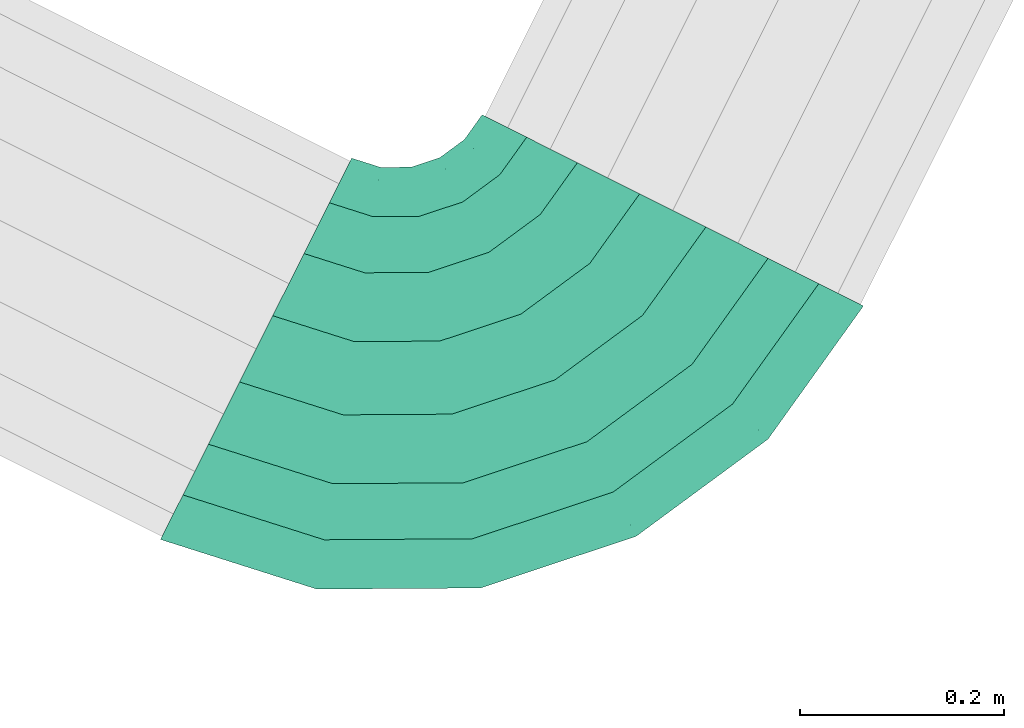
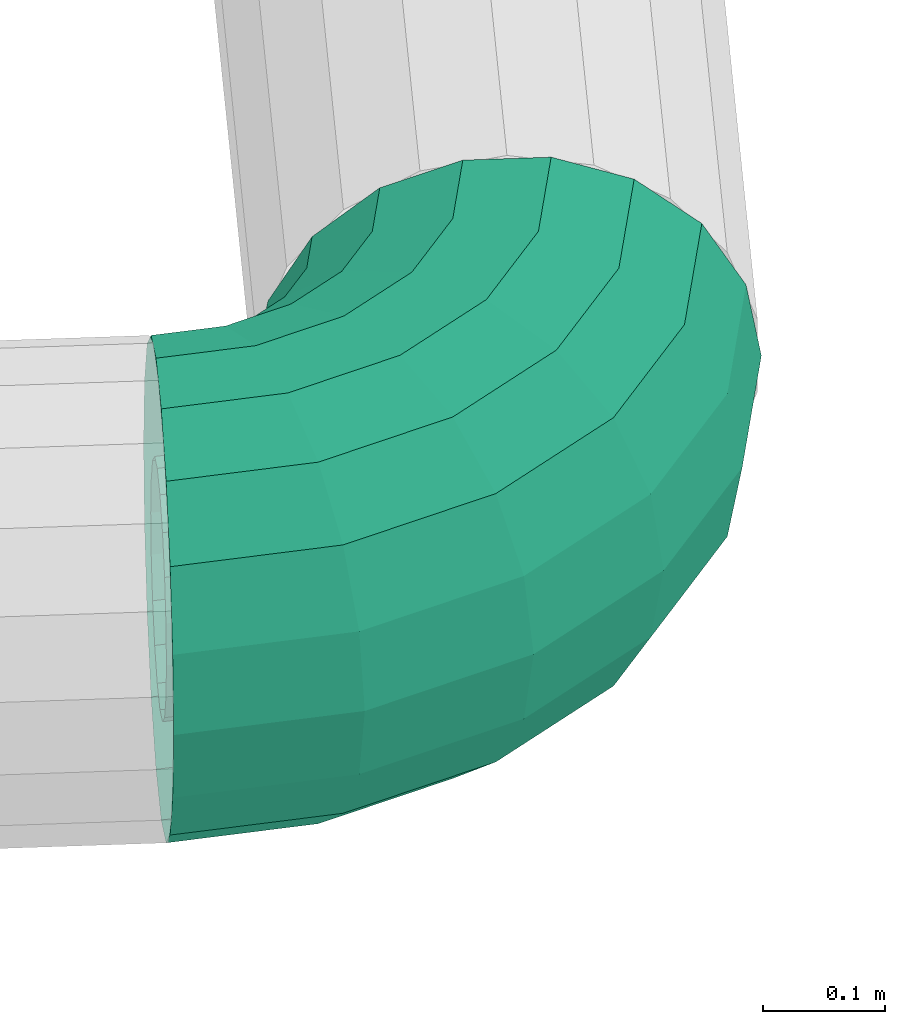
# One storey, part 49 of 152: 1 flow segment.
"""IFC2X3 building model written with IfcOpenShell, lengths in metres."""

from ifc_helpers import new_model, si_unit, derived_unit, direction, frame, origin, place, context, subcontext, project, spatial, face_set, surface_model, source, transform, mapped, material, type_object, type_shapes, element, save


model = new_model("IFC2X3")

# Units and contexts
model_context = context("Model", 3, precision=5.2338327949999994e-05, world=origin(), true_north=direction((0.0, 1.0)))
body_context = subcontext(model_context, "Body", "Model", "MODEL_VIEW")
ifc_project = project(units=[si_unit("LENGTHUNIT", "METRE"), si_unit("AREAUNIT", "SQUARE_METRE"), si_unit("VOLUMEUNIT", "CUBIC_METRE"), si_unit("MASSUNIT", "GRAM", prefix="KILO"), si_unit("PLANEANGLEUNIT", "RADIAN"), derived_unit("THERMALTRANSMITTANCEUNIT", [(si_unit("MASSUNIT", "GRAM", prefix="KILO"), 1), (si_unit("THERMODYNAMICTEMPERATUREUNIT", "KELVIN"), -1), (si_unit("TIMEUNIT", "SECOND"), -3)])], contexts=[model_context])

# Site, building, storey
site_placement = place(None, frame((0.0, 0.0, 0.0), z_axis=(0.0, 0.0, 1.0), x_axis=(0.8939966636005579, -0.4480736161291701, 0.0)))
site = spatial("IfcSite", under=ifc_project, at=site_placement, Name="Default", CompositionType="ELEMENT")
building_placement = place(site_placement, origin())
building = spatial("IfcBuilding", under=site, at=building_placement, CompositionType="ELEMENT")
storey_placement = place(building_placement, frame((0.0, 0.0, 2.7499999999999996)))
storey = spatial("IfcBuildingStorey", under=building, at=storey_placement, Name="1. Obergeschoss", CompositionType="ELEMENT", Elevation=2.7499999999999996)

# Flow segment
ifc_material = material(Name="IfcSurfaceStyle #1741")
distribution_element_type = type_object("IfcDistributionElementType", Name="Rohrbogen 227214:Rohrbogen 227214", material=ifc_material)
shared_shape = source(origin(), body_context, "Body", "SurfaceModel", [
    surface_model("IfcFaceBasedSurfaceModel", [(15.752724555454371, 7.902658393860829, 5.635640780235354), (15.752724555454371, 7.909265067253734, 5.598172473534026), (15.878785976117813, 7.929231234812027, 5.598172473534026), (15.880827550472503, 7.922947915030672, 5.635640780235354), (15.992507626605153, 7.987175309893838, 5.598172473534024), (15.996390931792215, 7.981830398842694, 5.635640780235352), (16.08275763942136, 8.077425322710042, 5.598172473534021), (16.088102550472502, 8.073542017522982, 5.635640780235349), (16.14070171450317, 8.191146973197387, 5.598172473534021), (16.14698503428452, 8.189105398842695, 5.635640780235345), (16.160667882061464, 8.317208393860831, 5.598172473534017), (16.167274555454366, 8.317208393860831, 5.635640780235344), (15.752724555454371, 7.928288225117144, 5.565223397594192), (15.872907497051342, 7.947323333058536, 5.565223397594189), (15.981326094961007, 8.002565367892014, 5.565223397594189), (16.067367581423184, 8.08860685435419, 5.565223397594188), (16.122609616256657, 8.197025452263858, 5.565223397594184), (16.141644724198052, 8.317208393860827, 5.565223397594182), (15.752724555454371, 7.9574333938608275, 5.540767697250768), (15.863901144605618, 7.975042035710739, 5.540767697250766), (15.964194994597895, 8.02614430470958, 5.540767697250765), (16.043788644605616, 8.105737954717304, 5.540767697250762), (16.094890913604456, 8.206031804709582, 5.540767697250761), (16.11249955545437, 8.317208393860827, 5.540767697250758), (15.752724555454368, 7.993185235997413, 5.527755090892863), (15.8528532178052, 8.009044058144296, 5.527755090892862), (15.943180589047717, 8.05506815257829, 5.527755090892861), (16.014864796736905, 8.126752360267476, 5.52775509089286), (16.0608888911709, 8.217079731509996, 5.527755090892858), (16.076747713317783, 8.317208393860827, 5.527755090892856), (15.752724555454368, 8.03123155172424, 5.527755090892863), (15.841096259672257, 8.045228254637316, 5.527755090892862), (15.920817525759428, 8.085848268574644, 5.527755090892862), (15.984084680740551, 8.149115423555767, 5.527755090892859), (16.024704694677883, 8.22883668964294, 5.527755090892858), (16.038701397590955, 8.317208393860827, 5.527755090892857), (15.752724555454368, 8.066983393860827, 5.540767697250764), (15.830048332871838, 8.07923027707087, 5.540767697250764), (15.899803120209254, 8.114772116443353, 5.540767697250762), (15.955160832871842, 8.170129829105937, 5.540767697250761), (15.990702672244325, 8.239884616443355, 5.54076769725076), (16.002949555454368, 8.317208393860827, 5.540767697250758), (15.752724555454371, 8.096128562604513, 5.565223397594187), (15.821041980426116, 8.106948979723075, 5.565223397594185), (15.88267201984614, 8.13835105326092, 5.565223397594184), (15.931581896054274, 8.187260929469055, 5.565223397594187), (15.962983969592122, 8.24889096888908, 5.565223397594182), (15.973804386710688, 8.317208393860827, 5.565223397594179), (15.752724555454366, 8.115151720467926, 5.598172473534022), (15.815163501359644, 8.125041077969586, 5.59817247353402), (15.871490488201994, 8.153741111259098, 5.598172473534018), (15.9161918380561, 8.198442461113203, 5.598172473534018), (15.944891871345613, 8.254769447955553, 5.598172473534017), (15.95478122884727, 8.317208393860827, 5.5981724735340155), (15.752724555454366, 8.12175839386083, 5.635640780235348), (15.81312192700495, 8.13132439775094, 5.635640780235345), (15.86760718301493, 8.159086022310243, 5.635640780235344), (15.91084692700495, 8.202325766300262, 5.635640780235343), (15.938608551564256, 8.256811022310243, 5.635640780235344), (15.948174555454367, 8.317208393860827, 5.6356407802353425), (15.752724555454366, 8.115151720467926, 5.673109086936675), (15.815163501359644, 8.125041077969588, 5.673109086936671), (15.871490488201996, 8.1537411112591, 5.673109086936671), (15.916191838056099, 8.198442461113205, 5.67310908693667), (15.944891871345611, 8.254769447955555, 5.67310908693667), (15.95478122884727, 8.317208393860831, 5.673109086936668), (15.752724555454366, 8.096128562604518, 5.706058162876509), (15.821041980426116, 8.106948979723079, 5.706058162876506), (15.88267201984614, 8.138351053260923, 5.706058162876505), (15.931581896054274, 8.187260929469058, 5.706058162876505), (15.96298396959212, 8.248890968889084, 5.706058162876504), (15.973804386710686, 8.317208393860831, 5.706058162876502), (15.752724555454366, 8.06698339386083, 5.730513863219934), (15.830048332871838, 8.079230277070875, 5.730513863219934), (15.899803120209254, 8.11477211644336, 5.730513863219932), (15.955160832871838, 8.170129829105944, 5.730513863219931), (15.990702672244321, 8.23988461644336, 5.730513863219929), (16.002949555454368, 8.317208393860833, 5.730513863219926), (15.752724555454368, 8.031231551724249, 5.743526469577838), (15.841096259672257, 8.045228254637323, 5.743526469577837), (15.920817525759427, 8.085848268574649, 5.743526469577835), (15.98408468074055, 8.149115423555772, 5.7435264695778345), (16.024704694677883, 8.228836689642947, 5.743526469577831), (16.03870139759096, 8.317208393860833, 5.74352646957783), (15.752724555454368, 7.99318523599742, 5.743526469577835), (15.8528532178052, 8.009044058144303, 5.743526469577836), (15.943180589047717, 8.055068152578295, 5.743526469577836), (16.01486479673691, 8.126752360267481, 5.743526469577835), (16.060888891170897, 8.217079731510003, 5.743526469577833), (16.07674771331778, 8.317208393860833, 5.743526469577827), (15.752724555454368, 7.957433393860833, 5.730513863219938), (15.863901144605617, 7.975042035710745, 5.730513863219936), (15.964194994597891, 8.026144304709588, 5.730513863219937), (16.043788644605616, 8.105737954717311, 5.730513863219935), (16.094890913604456, 8.206031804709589, 5.730513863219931), (16.112499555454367, 8.317208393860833, 5.730513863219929), (15.752724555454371, 7.92828822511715, 5.706058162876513), (15.872907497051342, 7.9473233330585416, 5.706058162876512), (15.981326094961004, 8.002565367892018, 5.706058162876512), (16.06736758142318, 8.088606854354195, 5.706058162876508), (16.122609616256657, 8.197025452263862, 5.706058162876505), (16.14164472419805, 8.317208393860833, 5.706058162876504), (15.752724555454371, 7.909265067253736, 5.673109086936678), (15.878785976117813, 7.929231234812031, 5.673109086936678), (15.99250762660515, 7.987175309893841, 5.673109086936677), (16.08275763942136, 8.077425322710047, 5.673109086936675), (16.140701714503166, 8.19114697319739, 5.673109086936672), (16.160667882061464, 8.317208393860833, 5.67310908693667), (15.752724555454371, 7.8026583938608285, 5.635640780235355), (15.752724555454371, 7.81529580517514, 5.563970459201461), (15.90782407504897, 7.839861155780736, 5.563970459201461), (15.91172924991, 7.827842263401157, 5.635640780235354), (16.047741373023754, 7.911152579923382, 5.56397045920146), (16.055169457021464, 7.900928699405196, 5.635640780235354), (16.158780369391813, 8.02219157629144, 5.563970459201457), (16.16900424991, 8.014763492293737, 5.635640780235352), (16.23007179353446, 8.162108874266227, 5.563970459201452), (16.24209068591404, 8.158203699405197, 5.635640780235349), (16.25463714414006, 8.317208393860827, 5.56397045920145), (16.26727455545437, 8.317208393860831, 5.635640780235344), (15.752724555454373, 7.851683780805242, 5.50094463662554), (15.896579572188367, 7.874468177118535, 5.500944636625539), (16.026353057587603, 7.940591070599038, 5.500944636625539), (16.129341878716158, 8.043579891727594, 5.500944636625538), (16.195464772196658, 8.173353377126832, 5.5009446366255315), (16.218249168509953, 8.317208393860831, 5.50094463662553), (15.752724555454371, 7.907433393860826, 5.454165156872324), (15.879351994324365, 7.927489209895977, 5.454165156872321), (15.993584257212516, 7.98569345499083, 5.454165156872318), (16.084239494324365, 8.076348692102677, 5.45416515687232), (16.142443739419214, 8.190580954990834, 5.454165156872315), (16.16249955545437, 8.317208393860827, 5.454165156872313), (15.752724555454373, 7.975820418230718, 5.429274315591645), (15.858219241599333, 7.992529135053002, 5.429274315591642), (15.953387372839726, 8.041019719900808, 5.429274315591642), (16.028913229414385, 8.116545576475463, 5.42927431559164), (16.07740381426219, 8.21171370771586, 5.429274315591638), (16.094112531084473, 8.317208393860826, 5.429274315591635), (15.752724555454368, 8.048596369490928, 5.429274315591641), (15.835730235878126, 8.0617431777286, 5.429274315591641), (15.91061074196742, 8.099896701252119, 5.429274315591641), (15.970036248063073, 8.159322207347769, 5.4292743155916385), (16.008189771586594, 8.234202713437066, 5.429274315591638), (16.021336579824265, 8.317208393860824, 5.429274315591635), (15.752724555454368, 8.116983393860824, 5.4541651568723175), (15.814597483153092, 8.126783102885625, 5.454165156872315), (15.87041385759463, 8.1552229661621, 5.454165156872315), (15.914709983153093, 8.199519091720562, 5.454165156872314), (15.943149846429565, 8.255335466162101, 5.454165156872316), (15.95294955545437, 8.317208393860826, 5.45416515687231), (15.752724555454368, 8.172733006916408, 5.50094463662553), (15.797369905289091, 8.179804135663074, 5.500944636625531), (15.837645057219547, 8.200325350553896, 5.500944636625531), (15.869607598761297, 8.23228789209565, 5.50094463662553), (15.890128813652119, 8.272563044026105, 5.500944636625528), (15.897199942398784, 8.317208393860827, 5.500944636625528), (15.752724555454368, 8.209120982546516, 5.5639704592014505), (15.786125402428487, 8.214411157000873, 5.56397045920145), (15.81625674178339, 8.229763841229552, 5.5639704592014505), (15.840169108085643, 8.253676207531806, 5.56397045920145), (15.855521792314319, 8.283807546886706, 5.5639704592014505), (15.860811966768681, 8.317208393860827, 5.56397045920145), (15.752724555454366, 8.221758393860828, 5.635640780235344), (15.782220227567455, 8.226430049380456, 5.635640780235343), (15.808828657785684, 8.23998772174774, 5.635640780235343), (15.82994522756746, 8.261104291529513, 5.635640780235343), (15.843502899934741, 8.287712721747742, 5.635640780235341), (15.848174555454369, 8.317208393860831, 5.635640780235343), (15.752724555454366, 8.209120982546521, 5.707311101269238), (15.786125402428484, 8.21441115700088, 5.707311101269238), (15.816256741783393, 8.229763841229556, 5.707311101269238), (15.840169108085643, 8.253676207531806, 5.707311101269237), (15.855521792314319, 8.283807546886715, 5.7073111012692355), (15.86081196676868, 8.317208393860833, 5.7073111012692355), (15.752724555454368, 8.172733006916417, 5.77033692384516), (15.797369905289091, 8.179804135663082, 5.770336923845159), (15.837645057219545, 8.200325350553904, 5.77033692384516), (15.869607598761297, 8.232287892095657, 5.770336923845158), (15.890128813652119, 8.272563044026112, 5.770336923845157), (15.897199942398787, 8.317208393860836, 5.770336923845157), (15.752724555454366, 8.116983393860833, 5.817116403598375), (15.814597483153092, 8.126783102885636, 5.817116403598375), (15.870413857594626, 8.155222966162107, 5.817116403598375), (15.914709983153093, 8.199519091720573, 5.817116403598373), (15.943149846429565, 8.25533546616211, 5.817116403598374), (15.952949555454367, 8.317208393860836, 5.817116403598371), (15.752724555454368, 8.04859636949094, 5.842007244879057), (15.835730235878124, 8.06174317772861, 5.842007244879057), (15.910610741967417, 8.099896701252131, 5.842007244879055), (15.970036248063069, 8.159322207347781, 5.8420072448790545), (16.008189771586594, 8.234202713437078, 5.842007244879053), (16.021336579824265, 8.317208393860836, 5.84200724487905), (15.752724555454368, 7.975820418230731, 5.84200724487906), (15.85821924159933, 7.992529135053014, 5.842007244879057), (15.953387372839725, 8.041019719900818, 5.842007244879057), (16.02891322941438, 8.116545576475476, 5.842007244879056), (16.07740381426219, 8.211713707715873, 5.842007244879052), (16.094112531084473, 8.317208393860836, 5.84200724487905), (15.752724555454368, 7.907433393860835, 5.817116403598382), (15.879351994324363, 7.927489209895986, 5.81711640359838), (15.993584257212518, 7.985693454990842, 5.817116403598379), (16.08423949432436, 8.076348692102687, 5.817116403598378), (16.142443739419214, 8.190580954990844, 5.8171164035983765), (16.16249955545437, 8.31720839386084, 5.817116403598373), (15.752724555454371, 7.851683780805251, 5.770336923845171), (15.896579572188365, 7.874468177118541, 5.77033692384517), (16.026353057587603, 7.940591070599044, 5.770336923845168), (16.129341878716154, 8.043579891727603, 5.770336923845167), (16.195464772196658, 8.17335337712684, 5.770336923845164), (16.21824916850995, 8.317208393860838, 5.770336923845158), (15.752724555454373, 7.815295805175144, 5.70731110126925), (15.907824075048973, 7.839861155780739, 5.70731110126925), (16.047741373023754, 7.911152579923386, 5.707311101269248), (16.158780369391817, 8.022191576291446, 5.707311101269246), (16.23007179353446, 8.162108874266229, 5.7073111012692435), (16.25463714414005, 8.317208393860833, 5.707311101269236)], [face_set([[[0, 1, 2, 3]], [[3, 2, 4, 5]], [[5, 4, 6, 7]], [[7, 6, 8, 9]], [[9, 8, 10, 11]], [[1, 12, 13, 2]], [[2, 13, 14, 4]], [[4, 14, 15, 6]], [[6, 15, 16, 8]], [[8, 16, 17, 10]], [[12, 18, 19, 13]], [[13, 19, 20, 14]], [[14, 20, 21, 15]], [[15, 21, 22, 16]], [[16, 22, 23, 17]], [[18, 24, 25, 19]], [[19, 25, 26, 20]], [[20, 26, 27, 21]], [[21, 27, 28, 22]], [[22, 28, 29, 23]], [[24, 30, 31, 25]], [[25, 31, 32, 26]], [[26, 32, 33, 27]], [[27, 33, 34, 28]], [[28, 34, 35, 29]], [[30, 36, 37, 31]], [[31, 37, 38, 32]], [[32, 38, 39, 33]], [[33, 39, 40, 34]], [[34, 40, 41, 35]], [[36, 42, 43, 37]], [[37, 43, 44, 38]], [[38, 44, 45, 39]], [[39, 45, 46, 40]], [[40, 46, 47, 41]], [[42, 48, 49, 43]], [[43, 49, 50, 44]], [[44, 50, 51, 45]], [[45, 51, 52, 46]], [[46, 52, 53, 47]], [[48, 54, 55, 49]], [[49, 55, 56, 50]], [[50, 56, 57, 51]], [[51, 57, 58, 52]], [[52, 58, 59, 53]], [[54, 60, 61, 55]], [[55, 61, 62, 56]], [[56, 62, 63, 57]], [[57, 63, 64, 58]], [[58, 64, 65, 59]], [[60, 66, 67, 61]], [[61, 67, 68, 62]], [[62, 68, 69, 63]], [[63, 69, 70, 64]], [[64, 70, 71, 65]], [[66, 72, 73, 67]], [[67, 73, 74, 68]], [[68, 74, 75, 69]], [[69, 75, 76, 70]], [[70, 76, 77, 71]], [[72, 78, 79, 73]], [[73, 79, 80, 74]], [[74, 80, 81, 75]], [[75, 81, 82, 76]], [[76, 82, 83, 77]], [[78, 84, 85, 79]], [[79, 85, 86, 80]], [[80, 86, 87, 81]], [[81, 87, 88, 82]], [[82, 88, 89, 83]], [[84, 90, 91, 85]], [[85, 91, 92, 86]], [[86, 92, 93, 87]], [[87, 93, 94, 88]], [[88, 94, 95, 89]], [[90, 96, 97, 91]], [[91, 97, 98, 92]], [[92, 98, 99, 93]], [[93, 99, 100, 94]], [[94, 100, 101, 95]], [[96, 102, 103, 97]], [[97, 103, 104, 98]], [[98, 104, 105, 99]], [[99, 105, 106, 100]], [[100, 106, 107, 101]], [[102, 0, 3, 103]], [[103, 3, 5, 104]], [[104, 5, 7, 105]], [[105, 7, 9, 106]], [[106, 9, 11, 107]], [[108, 109, 110, 111]], [[111, 110, 112, 113]], [[113, 112, 114, 115]], [[115, 114, 116, 117]], [[117, 116, 118, 119]], [[109, 120, 121, 110]], [[110, 121, 122, 112]], [[112, 122, 123, 114]], [[114, 123, 124, 116]], [[116, 124, 125, 118]], [[120, 126, 127, 121]], [[121, 127, 128, 122]], [[122, 128, 129, 123]], [[123, 129, 130, 124]], [[124, 130, 131, 125]], [[126, 132, 133, 127]], [[127, 133, 134, 128]], [[128, 134, 135, 129]], [[129, 135, 136, 130]], [[130, 136, 137, 131]], [[132, 138, 139, 133]], [[133, 139, 140, 134]], [[134, 140, 141, 135]], [[135, 141, 142, 136]], [[136, 142, 143, 137]], [[138, 144, 145, 139]], [[139, 145, 146, 140]], [[140, 146, 147, 141]], [[141, 147, 148, 142]], [[142, 148, 149, 143]], [[144, 150, 151, 145]], [[145, 151, 152, 146]], [[146, 152, 153, 147]], [[147, 153, 154, 148]], [[148, 154, 155, 149]], [[150, 156, 157, 151]], [[151, 157, 158, 152]], [[152, 158, 159, 153]], [[153, 159, 160, 154]], [[154, 160, 161, 155]], [[156, 162, 163, 157]], [[157, 163, 164, 158]], [[158, 164, 165, 159]], [[159, 165, 166, 160]], [[160, 166, 167, 161]], [[162, 168, 169, 163]], [[163, 169, 170, 164]], [[164, 170, 171, 165]], [[165, 171, 172, 166]], [[166, 172, 173, 167]], [[168, 174, 175, 169]], [[169, 175, 176, 170]], [[170, 176, 177, 171]], [[171, 177, 178, 172]], [[172, 178, 179, 173]], [[174, 180, 181, 175]], [[175, 181, 182, 176]], [[176, 182, 183, 177]], [[177, 183, 184, 178]], [[178, 184, 185, 179]], [[180, 186, 187, 181]], [[181, 187, 188, 182]], [[182, 188, 189, 183]], [[183, 189, 190, 184]], [[184, 190, 191, 185]], [[186, 192, 193, 187]], [[187, 193, 194, 188]], [[188, 194, 195, 189]], [[189, 195, 196, 190]], [[190, 196, 197, 191]], [[192, 198, 199, 193]], [[193, 199, 200, 194]], [[194, 200, 201, 195]], [[195, 201, 202, 196]], [[196, 202, 203, 197]], [[198, 204, 205, 199]], [[199, 205, 206, 200]], [[200, 206, 207, 201]], [[201, 207, 208, 202]], [[202, 208, 209, 203]], [[204, 210, 211, 205]], [[205, 211, 212, 206]], [[206, 212, 213, 207]], [[207, 213, 214, 208]], [[208, 214, 215, 209]], [[210, 108, 111, 211]], [[211, 111, 113, 212]], [[212, 113, 115, 213]], [[213, 115, 117, 214]], [[214, 117, 119, 215]]])]),
])
type_shapes(distribution_element_type, [shared_shape])
flow_segment_placement = place(storey_placement, frame((0.0, 0.0, -2.7499999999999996)))
element("IfcFlowSegment", 1, at=flow_segment_placement, inside=storey, type_object=distribution_element_type, material=ifc_material, Name="Rohrbogen", ObjectType="Rohrbogen", context=body_context, shape_type="MappedRepresentation", body=[
    mapped(shared_shape, transform((0.0, 0.0, 0.0), scale=1.0)),
])

save(model, "model.ifc")
